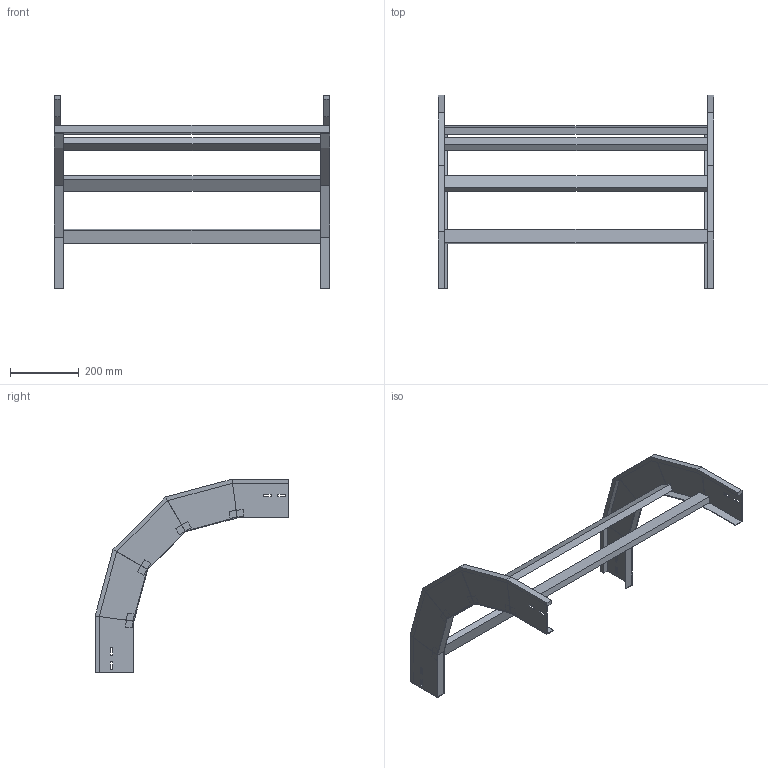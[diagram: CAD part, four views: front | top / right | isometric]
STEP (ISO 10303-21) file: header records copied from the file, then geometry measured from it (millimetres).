
FILE_DESCRIPTION (( 'STEP AP214' ), '1' );
FILE_NAME ('A2_33B3J800.step', '2025-02-21T15:03:52', ( '' ), ( '' ), 'SwSTEP 2.0', 'SolidWorks 2023', '' );
FILE_SCHEMA (( 'AUTOMOTIVE_DESIGN' ));
Length unit declared in the file: millimetre
Products named in the file (3): A2_33B3J800; TRAVERSINO_800; LONGH.DISCESA_90°_H112.5_R300
Assembly tree (6 placements, depth 2):
  A2_33B3J800
    LONGH.DISCESA_90°_H112.5_R300  x2
    TRAVERSINO_800  x4
Bounding box: 800 x 561.94 x 561.94 mm (x, y, z)
Volume: 3397074 mm3; surface area: 920139.5 mm2
Topology: 6 solids, 6 shells, 140 faces, 320 edges, 192 vertices
Faces by surface type: plane 140
Entity records: 1872 total; most frequent: CARTESIAN_POINT 309, ORIENTED_EDGE 296, DIRECTION 294, VECTOR 148, EDGE_CURVE 148, LINE 148, VERTEX_POINT 88, AXIS2_PLACEMENT_3D 73
